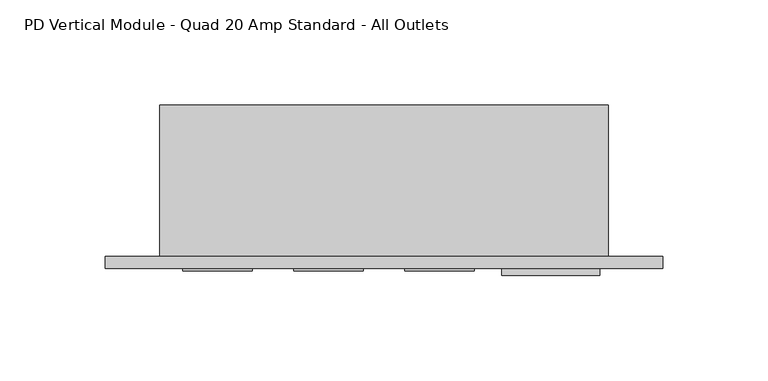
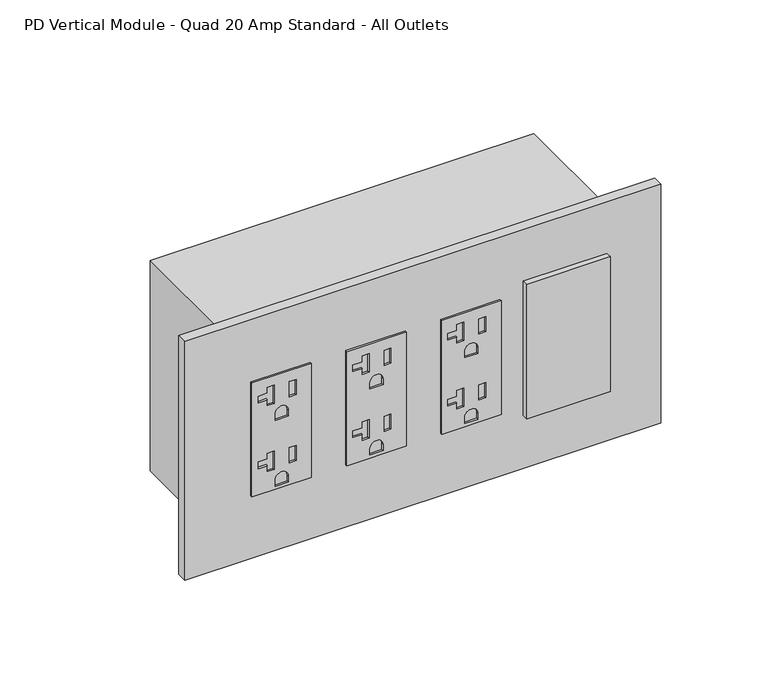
"""IFC4 building model written with IfcOpenShell, lengths in millimetres: proxy geometry, Electrical-Teknion-EPDMQ_Vertical_Power_Data_Quad-R2019 : PD Vertical Module - Quad 20 Amp Standard - All Outlets."""

from ifc_helpers import new_model, si_unit, point, frame, frame_2d, origin, place, context, project, spatial, polyline, circle_curve, trimmed, segment, composite_curve, outline, extrude, source, transform, mapped, element, save


def pd_vertical_module_quad_20_amp_standard_all_outlets_cea8ea7a(model_context):
    return source(origin(), model_context, "Body", "SweptSolid", [
        extrude(outline(polyline([(490.6772, 149.4282), (490.6772, 116.4336), (423.7228, 116.4336), (423.7228, 149.4282), (490.6772, 149.4282)]), holes=[polyline([(485.2924, 128.778), (474.472, 128.778), (474.472, 124.9426), (477.9518, 124.9426), (477.9518, 119.8372), (481.8126, 119.8372), (481.8126, 124.9426), (485.2924, 124.9426), (485.2924, 128.778)]), polyline([(484.3145, 140.9446), (475.4499, 140.9446), (475.4499, 137.1092), (484.3145, 137.1092), (484.3145, 140.9446)]), composite_curve([segment(polyline([(464.2866, 136.5631), (464.2866, 129.2987), (467.9188, 129.2987)]), True, "CONTINUOUS"), segment(trimmed(circle_curve(frame_2d((467.9188, 132.9309)), 3.6322), [point((467.9188, 129.2987))], [point((467.9188, 136.5631))], True, "CARTESIAN"), True, "CONTINUOUS"), segment(polyline([(467.9188, 136.5631), (464.2866, 136.5631)]), True, "CONTINUOUS")], self_intersect=False), polyline([(446.5574, 128.778), (435.737, 128.778), (435.737, 124.9426), (439.2168, 124.9426), (439.2168, 119.8372), (443.0776, 119.8372), (443.0776, 124.9426), (446.5574, 124.9426), (446.5574, 128.778)]), polyline([(445.5795, 140.9446), (436.7149, 140.9446), (436.7149, 137.1092), (445.5795, 137.1092), (445.5795, 140.9446)]), composite_curve([segment(polyline([(425.5516, 136.5631), (425.5516, 129.2987), (429.1838, 129.2987)]), True, "CONTINUOUS"), segment(trimmed(circle_curve(frame_2d((429.1838, 132.9309)), 3.6322), [point((429.1838, 129.2987))], [point((429.1838, 136.5631))], True, "CARTESIAN"), True, "CONTINUOUS"), segment(polyline([(429.1838, 136.5631), (425.5516, 136.5631)]), True, "CONTINUOUS")], self_intersect=False)]), frame((0.0, -6.9294746, 0.0), z_axis=(0.0, 1.0, 0.0), x_axis=(0.0, 0.0, 1.0)), (0.0, 0.0, 1.0), 1.0366746),
        extrude(outline(polyline([(490.6772, 96.7613), (490.6772, 63.7667), (423.7228, 63.7667), (423.7228, 96.7613), (490.6772, 96.7613)]), holes=[polyline([(485.2924, 76.1111), (474.472, 76.1111), (474.472, 72.2757), (477.9518, 72.2757), (477.9518, 67.1703), (481.8126, 67.1703), (481.8126, 72.2757), (485.2924, 72.2757), (485.2924, 76.1111)]), polyline([(484.3145, 88.2777), (475.4499, 88.2777), (475.4499, 84.4423), (484.3145, 84.4423), (484.3145, 88.2777)]), composite_curve([segment(polyline([(464.2866, 83.8962), (464.2866, 76.6318), (467.9188, 76.6318)]), True, "CONTINUOUS"), segment(trimmed(circle_curve(frame_2d((467.9188, 80.264)), 3.6322), [point((467.9188, 76.6318))], [point((467.9188, 83.8962))], True, "CARTESIAN"), True, "CONTINUOUS"), segment(polyline([(467.9188, 83.8962), (464.2866, 83.8962)]), True, "CONTINUOUS")], self_intersect=False), polyline([(446.5574, 76.1111), (435.737, 76.1111), (435.737, 72.2757), (439.2168, 72.2757), (439.2168, 67.1703), (443.0776, 67.1703), (443.0776, 72.2757), (446.5574, 72.2757), (446.5574, 76.1111)]), polyline([(445.5795, 88.2777), (436.7149, 88.2777), (436.7149, 84.4423), (445.5795, 84.4423), (445.5795, 88.2777)]), composite_curve([segment(polyline([(425.5516, 83.8962), (425.5516, 76.6318), (429.1838, 76.6318)]), True, "CONTINUOUS"), segment(trimmed(circle_curve(frame_2d((429.1838, 80.264)), 3.6322), [point((429.1838, 76.6318))], [point((429.1838, 83.8962))], True, "CARTESIAN"), True, "CONTINUOUS"), segment(polyline([(429.1838, 83.8962), (425.5516, 83.8962)]), True, "CONTINUOUS")], self_intersect=False)]), frame((0.0, -6.9294746, 0.0), z_axis=(0.0, 1.0, 0.0), x_axis=(0.0, 0.0, 1.0)), (0.0, 0.0, 1.0), 1.0366746),
        extrude(outline(polyline([(490.6772, 44.0944), (490.6772, 11.0998), (423.7228, 11.0998), (423.7228, 44.0944), (490.6772, 44.0944)]), holes=[polyline([(485.2924, 23.4442), (474.472, 23.4442), (474.472, 19.6088), (477.9518, 19.6088), (477.9518, 14.5034), (481.8126, 14.5034), (481.8126, 19.6088), (485.2924, 19.6088), (485.2924, 23.4442)]), polyline([(484.3145, 35.6108), (475.4499, 35.6108), (475.4499, 31.7754), (484.3145, 31.7754), (484.3145, 35.6108)]), composite_curve([segment(polyline([(464.2866, 31.2293), (464.2866, 23.9649), (467.9188, 23.9649)]), True, "CONTINUOUS"), segment(trimmed(circle_curve(frame_2d((467.9188, 27.5971)), 3.6322), [point((467.9188, 23.9649))], [point((467.9188, 31.2293))], True, "CARTESIAN"), True, "CONTINUOUS"), segment(polyline([(467.9188, 31.2293), (464.2866, 31.2293)]), True, "CONTINUOUS")], self_intersect=False), polyline([(446.5574, 23.4442), (435.737, 23.4442), (435.737, 19.6088), (439.2168, 19.6088), (439.2168, 14.5034), (443.0776, 14.5034), (443.0776, 19.6088), (446.5574, 19.6088), (446.5574, 23.4442)]), polyline([(445.5795, 35.6108), (436.7149, 35.6108), (436.7149, 31.7754), (445.5795, 31.7754), (445.5795, 35.6108)]), composite_curve([segment(polyline([(425.5516, 31.2293), (425.5516, 23.9649), (429.1838, 23.9649)]), True, "CONTINUOUS"), segment(trimmed(circle_curve(frame_2d((429.1838, 27.5971)), 3.6322), [point((429.1838, 23.9649))], [point((429.1838, 31.2293))], True, "CARTESIAN"), True, "CONTINUOUS"), segment(polyline([(429.1838, 31.2293), (425.5516, 31.2293)]), True, "CONTINUOUS")], self_intersect=False)]), frame((0.0, -6.9294746, 0.0), z_axis=(0.0, 1.0, 0.0), x_axis=(0.0, 0.0, 1.0)), (0.0, 0.0, 1.0), 1.0366746),
        extrude(outline(polyline([(162.3314, -5.8928), (208.8642, -5.8928), (208.8642, -9.0678), (162.3314, -9.0678), (162.3314, -5.8928)])), frame((0.0, 0.0, 417.9922742), z_axis=(0.0, 0.0, 1.0), x_axis=(1.0, 0.0, 0.0)), (0.0, 0.0, 1.0), 79.0448),
        extrude(outline(polyline([(-25.6794, 0.0), (238.7092, 0.0), (238.7092, -5.8928), (-25.6794, -5.8928), (-25.6794, 0.0)])), frame((0.0, 0.0, 387.0198), z_axis=(0.0, 0.0, 1.0), x_axis=(1.0, 0.0, 0.0)), (0.0, 0.0, 1.0), 140.3604),
        extrude(outline(polyline([(213.0298, 0.0), (0.0, 0.0), (0.0, 71.7296), (213.0298, 71.7296), (213.0298, 0.0)])), frame((0.0, 0.0, 395.4526), z_axis=(0.0, 0.0, 1.0), x_axis=(1.0, 0.0, 0.0)), (0.0, 0.0, 1.0), 123.4948),
    ])


if __name__ == "__main__":
    model = new_model("IFC4")
    model_context = context("Model", 3, world=origin())
    ifc_project = project(units=[si_unit("LENGTHUNIT", "METRE", prefix="MILLI")], contexts=[model_context])
    site = spatial("IfcSite", under=ifc_project)
    building = spatial("IfcBuilding", under=site)
    placement = place(None, origin())
    pd_vertical_module_quad_20_amp_standard_all_outlets_shape = pd_vertical_module_quad_20_amp_standard_all_outlets_cea8ea7a(model_context)
    element("IfcBuildingElementProxy", 1, Name="Electrical-Teknion-EPDMQ_Vertical_Power_Data_Quad-R2019 : PD Vertical Module - Quad 20 Amp Standard - All Outlets", ObjectType="Electrical-Teknion-EPDMQ_Vertical_Power_Data_Quad-R2019 : PD Vertical Module - Quad 20 Amp Standard - All Outlets", at=placement, inside=building, context=model_context, shape_type="MappedRepresentation", body=[
        mapped(pd_vertical_module_quad_20_amp_standard_all_outlets_shape, transform((0.0, 0.0, 0.0), x_axis=(1.0, 0.0, 0.0), y_axis=(0.0, 1.0, 0.0), z_axis=(0.0, 0.0, 1.0))),
    ])
    save(model, "model.ifc")
